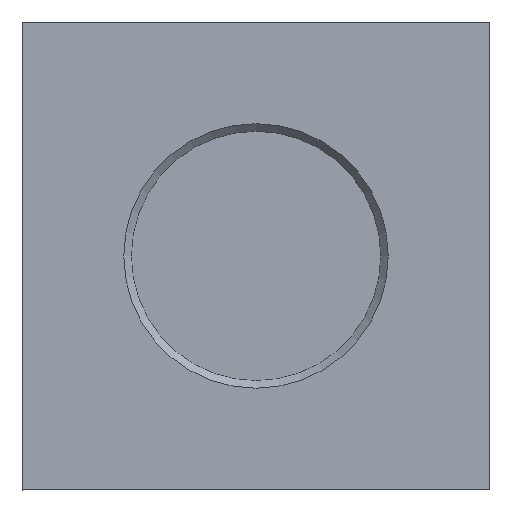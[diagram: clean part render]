
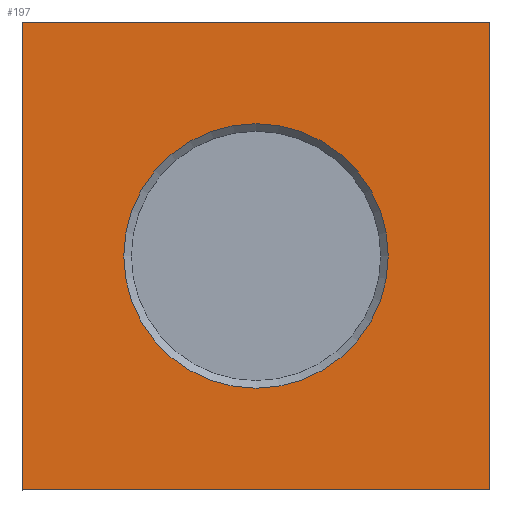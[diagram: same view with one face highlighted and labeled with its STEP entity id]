
A CAD part, top view. The second image highlights one B-rep face of the part: STEP entity #197.
In plain terms, the highlighted planar face has unit normal (0, 0, 1).
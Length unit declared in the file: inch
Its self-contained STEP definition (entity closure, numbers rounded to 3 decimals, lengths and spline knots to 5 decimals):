
#26=CARTESIAN_POINT('',(-4.7,2.43795,5.45716));
#27=VERTEX_POINT('',#26);
#42=CARTESIAN_POINT('',(-4.7,3.18795,5.45716));
#43=VERTEX_POINT('',#42);
#50=CARTESIAN_POINT('',(-4.7,0.,5.45716));
#51=DIRECTION('',(0.,1.,0.));
#52=VECTOR('',#51,1.);
#53=LINE('',#50,#52);
#54=EDGE_CURVE('',#27,#43,#53,.T.);
#73=CARTESIAN_POINT('',(-5.45,3.18795,5.45716));
#74=VERTEX_POINT('',#73);
#81=CARTESIAN_POINT('',(-3.80125,3.18795,5.45716));
#82=DIRECTION('',(1.,0.,0.));
#83=VECTOR('',#82,1.);
#84=LINE('',#81,#83);
#85=EDGE_CURVE('',#74,#43,#84,.T.);
#135=CARTESIAN_POINT('',(-5.45,2.43795,5.45716));
#136=VERTEX_POINT('',#135);
#137=CARTESIAN_POINT('',(0.,2.43795,5.45716));
#138=DIRECTION('',(1.,0.,0.));
#139=VECTOR('',#138,1.);
#140=LINE('',#137,#139);
#141=EDGE_CURVE('',#136,#27,#140,.T.);
#159=CARTESIAN_POINT('',(-5.45,0.,5.45716));
#160=DIRECTION('',(0.,-1.,0.));
#161=VECTOR('',#160,1.);
#162=LINE('',#159,#161);
#163=EDGE_CURVE('',#74,#136,#162,.T.);
#175=ORIENTED_EDGE('',*,*,#54,.T.);
#176=ORIENTED_EDGE('',*,*,#85,.F.);
#177=ORIENTED_EDGE('',*,*,#163,.T.);
#178=ORIENTED_EDGE('',*,*,#141,.T.);
#179=EDGE_LOOP('',(#175,#176,#177,#178));
#180=FACE_OUTER_BOUND('',#179,.T.);
#181=CARTESIAN_POINT('',(-5.287,2.81295,5.45716));
#182=VERTEX_POINT('',#181);
#183=CARTESIAN_POINT('',(-5.075,2.81295,5.45716));
#184=DIRECTION('',(0.,0.,-1.));
#185=DIRECTION('',(1.,0.,0.));
#186=AXIS2_PLACEMENT_3D('',#183,#184,#185);
#187=CIRCLE('',#186,0.212);
#188=EDGE_CURVE('',#182,#182,#187,.T.);
#189=ORIENTED_EDGE('',*,*,#188,.T.);
#190=EDGE_LOOP('',(#189));
#191=FACE_BOUND('',#190,.T.);
#192=CARTESIAN_POINT('',(-3.075,0.256,5.45716));
#193=DIRECTION('',(0.,0.,1.));
#194=DIRECTION('',(1.,0.,0.));
#195=AXIS2_PLACEMENT_3D('',#192,#193,#194);
#196=PLANE('',#195);
#197=ADVANCED_FACE('',(#180,#191),#196,.T.);
